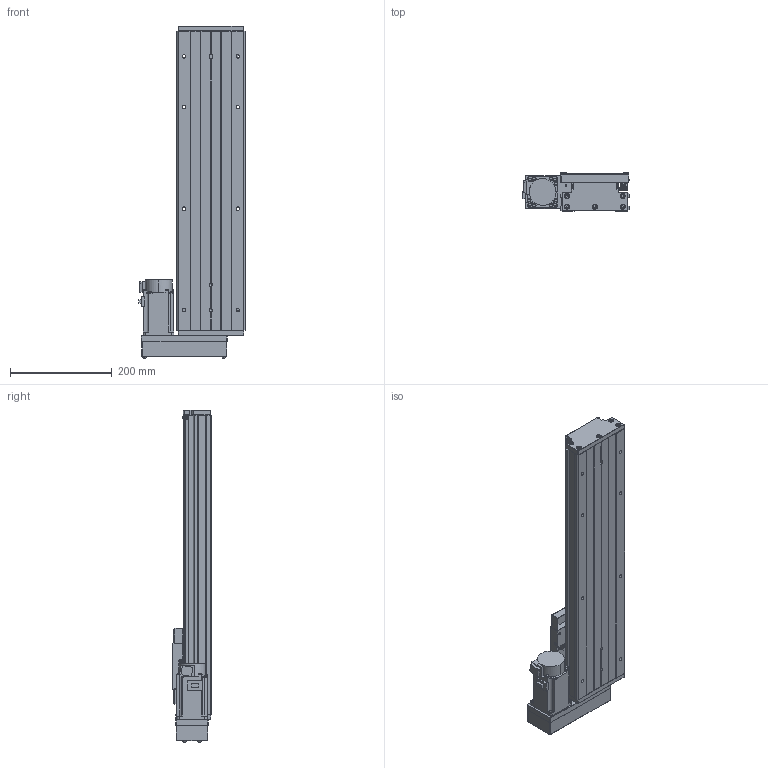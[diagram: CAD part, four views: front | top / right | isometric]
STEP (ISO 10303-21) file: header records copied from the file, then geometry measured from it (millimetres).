
FILE_DESCRIPTION (( 'STEP AP203' ), '1' );
FILE_NAME ('CTH130-400-BL-M40-C4.step', '2023-06-30T02:38:10', ( '微软用户' ), ( '微软中国' ), 'SwSTEP 2.0', 'SolidWorks 2020', '' );
FILE_SCHEMA (( 'CONFIG_CONTROL_DESIGN' ));
Length unit declared in the file: millimetre
Products named in the file (20): GTH14-005; GBT77-2000 M3×3; GTH14-033; GB1155-6X6; CTH130-031; CTH130-400-BL-M40-C4; GBT70.1 M5℅16; GBT 70.2-M3¡Á5_M3¡Á6; GTH14-001_400; CTHA60-017; す晦芛蹟隊 M3℅5; CTH130-002_GTH14-002; EE_SX911P_R; HG-KN43J-S100; GB T308.1-2013-6.35; CTHA60-016; GBT 70.2-M4¡Á35_M4¡Á35; GTH14-004; GBT 70.1-M3℅5; GTH14-015-2_CTHA86-015-2
Assembly tree (60 placements, depth 2):
  CTH130-400-BL-M40-C4
    GTH14-001_400
    CTH130-002_GTH14-002
    GB T308.1-2013-6.35  x2
    GTH14-004
    GTH14-005
    GB1155-6X6  x2
    GBT70.1 M5℅16  x10
    CTHA60-017  x3
    EE_SX911P_R  x3
    CTHA60-016  x2
    GBT 70.1-M3℅5  x6
    GBT77-2000 M3×3  x6
    CTH130-031
    GBT 70.2-M3¡Á5_M3¡Á6  x8
    す晦芛蹟隊 M3℅5  x6
    HG-KN43J-S100
    GBT 70.2-M4¡Á35_M4¡Á35  x4
    GTH14-015-2_CTHA86-015-2
    GTH14-033
Bounding box: 209.3 x 76 x 654.2 mm (x, y, z)
Volume: 3668837.4 mm3; surface area: 660239.2 mm2
Topology: 63 solids, 63 shells, 2425 faces, 5773 edges, 3569 vertices
Faces by surface type: plane 1308, cylinder 638, cone 299, torus 124, sphere 36, bspline 20
Entity records: 43616 total; most frequent: CARTESIAN_POINT 9797, DIRECTION 6342, ORIENTED_EDGE 6252, EDGE_CURVE 3126, AXIS2_PLACEMENT_3D 2158, LINE 2026, VECTOR 2026, VERTEX_POINT 1979
